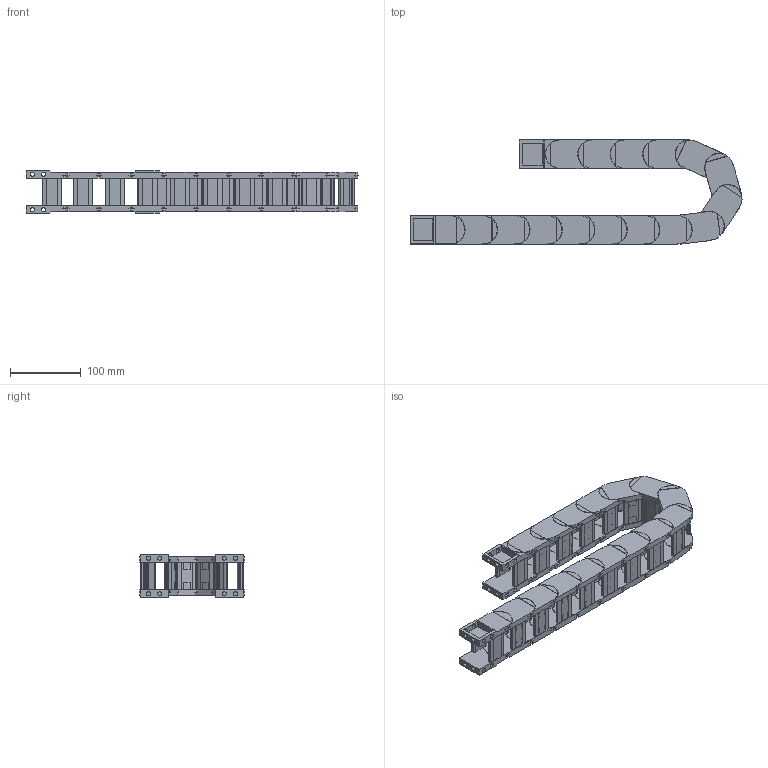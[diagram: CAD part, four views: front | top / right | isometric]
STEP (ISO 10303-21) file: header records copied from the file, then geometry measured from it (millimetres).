
FILE_DESCRIPTION((''),'2;1');
FILE_NAME('HD25-R55-ZPT_ASM','2022-09-04T16:33:58',('admin'),(''),'CREO PARAMETRIC BY PTC INC, 2021164','CREO PARAMETRIC BY PTC INC, 2021164','');
FILE_SCHEMA(('CONFIG_CONTROL_DESIGN','GEOMETRIC_VALIDATION_PROPERTIES_MIM'));
Length unit declared in the file: millimetre
Products named in the file (6): HD30; 25XL-QSYP-103; HD25_ASM; H25-T1; H25-T2; HD25-R55-ZPT_ASM
Assembly tree (21 placements, depth 3):
  HD25-R55-ZPT_ASM
    HD25_ASM  x15
      HD30
      25XL-QSYP-103
    H25-T1
    H25-T2
    25XL-QSYP-103  x2
Bounding box: 470.59 x 148.37 x 59.9 mm (x, y, z)
Volume: 708093.8 mm3; surface area: 390903.9 mm2
Topology: 68 solids, 98 shells, 1726 faces, 4375 edges, 2917 vertices
Faces by surface type: plane 1286, cylinder 380, torus 60
Entity records: 10721 total; most frequent: CARTESIAN_POINT 1520, DIRECTION 1466, ORIENTED_EDGE 1406, EDGE_CURVE 703, VECTOR 522, LINE 522, AXIS2_PLACEMENT_3D 472, VERTEX_POINT 469
